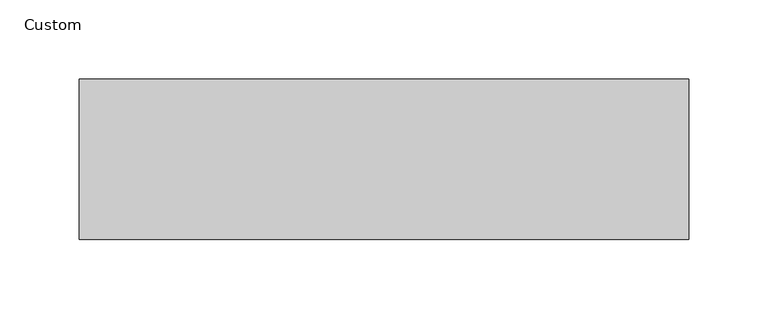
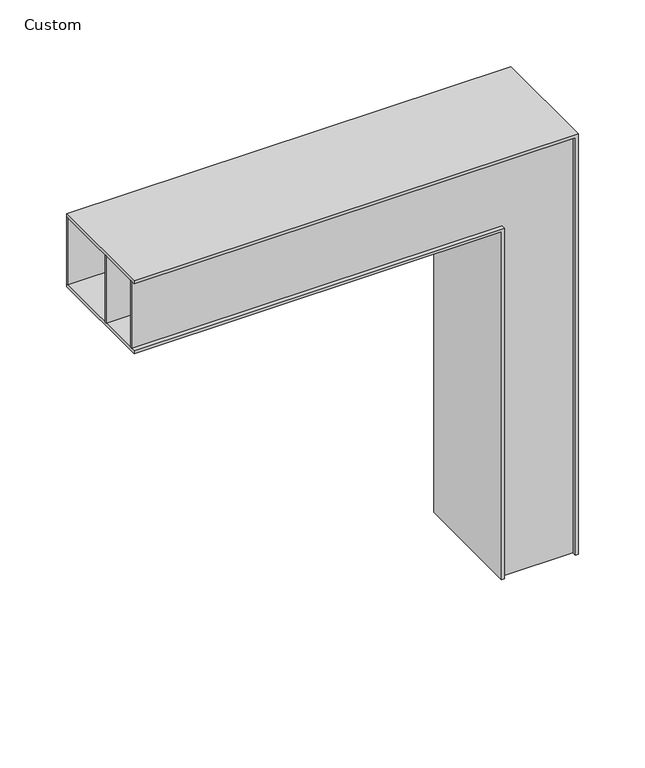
"""IFC4 building model written with IfcOpenShell, lengths in millimetres: light fixture geometry, Lighting-Wall-Betacalco-Block-Corner-Outside : Custom."""

from ifc_helpers import new_model, si_unit, frame, origin, place, context, project, spatial, polyline, outline, extrude, source, transform, mapped, element, save


def custom_f3685a3f(model_context):
    return source(origin(), model_context, "Body", "SweptSolid", [
        extrude(outline(polyline([(78.1248438, -304.8), (16.5298437, -304.8), (16.5298437, 16.5298437), (-304.8, 16.5298437), (-304.8, 78.1248438), (78.1248438, 78.1248438), (78.1248438, -304.8)])), frame((0.0, 100.0125, 0.0), z_axis=(0.0, 1.0, 0.0), x_axis=(0.0, 0.0, 1.0)), (0.0, 0.0, 1.0), 1.5875),
        extrude(outline(polyline([(78.1248438, -304.8), (16.5298437, -304.8), (16.5298437, 16.5298437), (-304.8, 16.5298437), (-304.8, 78.1248438), (78.1248438, 78.1248438), (78.1248438, -304.8)])), frame((0.0, 41.752587, 0.0), z_axis=(0.0, 1.0, 0.0), x_axis=(0.0, 0.0, 1.0)), (0.0, 0.0, 1.0), 1.5875),
        extrude(outline(polyline([(78.1248438, -304.8), (16.5298437, -304.8), (16.5298437, 16.5298437), (-304.8, 16.5298437), (-304.8, 78.1248438), (78.1248438, 78.1248438), (78.1248438, -304.8)])), frame((0.0, 3.7029412, 0.0), z_axis=(0.0, 1.0, 0.0), x_axis=(0.0, 0.0, 1.0)), (0.0, 0.0, 1.0), 1.5875),
        extrude(outline(polyline([(80.6648437, -304.8), (78.1248438, -304.8), (78.1248438, 78.1248438), (-304.8, 78.1248438), (-304.8, 80.6648438), (80.6648437, 80.6648438), (80.6648437, -304.8)])), frame((0.0, 0.0, 0.0), z_axis=(0.0, 1.0, 0.0), x_axis=(0.0, 0.0, 1.0)), (0.0, 0.0, 1.0), 101.6),
        extrude(outline(polyline([(16.5298437, -304.8), (13.9898437, -304.8), (13.9898437, 13.9898437), (-304.8, 13.9898437), (-304.8, 16.5298437), (16.5298437, 16.5298437), (16.5298437, -304.8)])), frame((0.0, 0.0, 0.0), z_axis=(0.0, 1.0, 0.0), x_axis=(0.0, 0.0, 1.0)), (0.0, 0.0, 1.0), 101.6),
    ])


if __name__ == "__main__":
    model = new_model("IFC4")
    model_context = context("Model", 3, world=origin())
    ifc_project = project(units=[si_unit("LENGTHUNIT", "METRE", prefix="MILLI")], contexts=[model_context])
    site = spatial("IfcSite", under=ifc_project)
    building = spatial("IfcBuilding", under=site)
    placement = place(None, origin())
    custom_shape = custom_f3685a3f(model_context)
    element("IfcLightFixture", 1, ObjectType="Lighting-Wall-Betacalco-Block-Corner-Outside : Custom", at=placement, inside=building, context=model_context, shape_type="MappedRepresentation", body=[
        mapped(custom_shape, transform((0.0, 0.0, 0.0), x_axis=(1.0, 0.0, 0.0), y_axis=(0.0, 1.0, 0.0), z_axis=(0.0, 0.0, 1.0))),
    ])
    save(model, "model.ifc")
